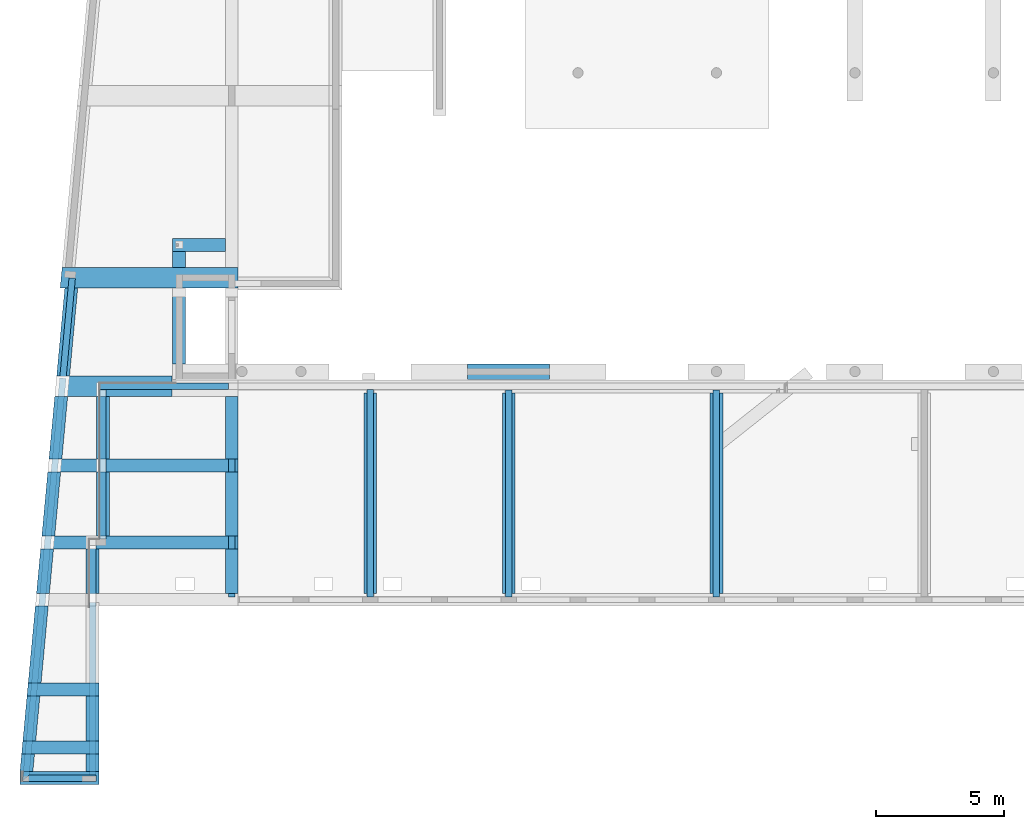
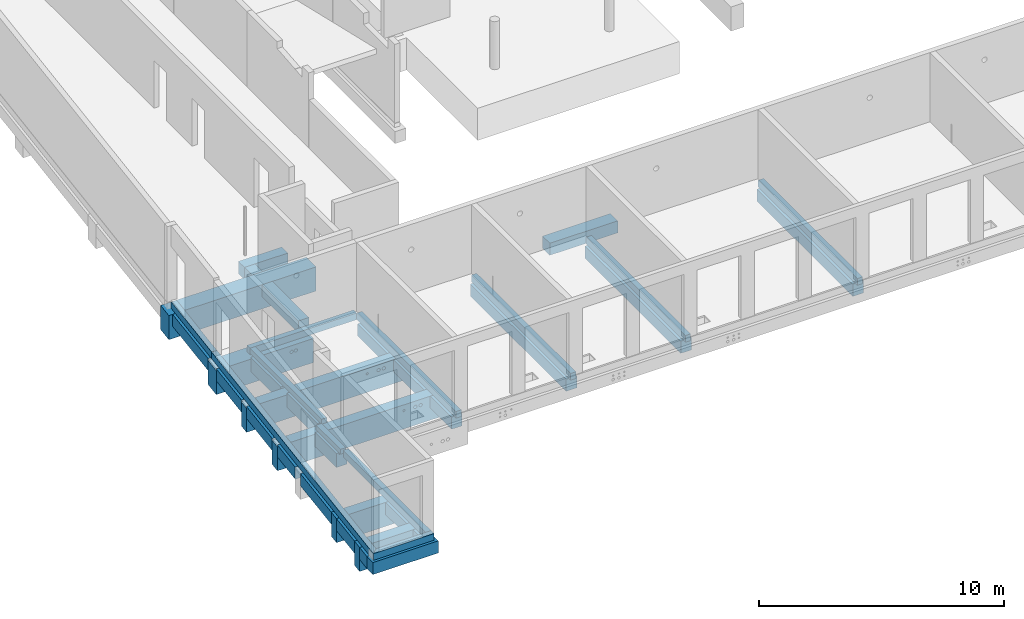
# One storey, part 1 of 60: 40 footings, 8 openings.
"""IFC2X3 building model written with IfcOpenShell, lengths in millimetres."""

from ifc_helpers import new_model, entity, si_unit, converted_unit, derived_unit, direction, frame, frame_2d, origin, origin_2d_with_axis, place, context, subcontext, project, spatial, polyline, rectangle, circle, outline, extrude, material, element, save


model = new_model("IFC2X3")

# Units and contexts
model_context = context("Model", 3, precision=0.01, world=origin(), true_north=direction((6.12303176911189e-17, 1.0)))
body_context = subcontext(model_context, "Body", "Model", "MODEL_VIEW")
ifc_project = project(units=[si_unit("LENGTHUNIT", "METRE", prefix="MILLI"), si_unit("AREAUNIT", "SQUARE_METRE"), si_unit("VOLUMEUNIT", "CUBIC_METRE"), converted_unit("PLANEANGLEUNIT", "DEGREE", entity("IfcRatioMeasure", 0.0174532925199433), si_unit("PLANEANGLEUNIT", "RADIAN"), dimensions=[0, 0, 0, 0, 0, 0, 0]), si_unit("MASSUNIT", "GRAM", prefix="KILO"), derived_unit("MASSDENSITYUNIT", [(si_unit("MASSUNIT", "GRAM", prefix="KILO"), 1), (si_unit("LENGTHUNIT", "METRE"), -3)]), si_unit("TIMEUNIT", "SECOND"), si_unit("FREQUENCYUNIT", "HERTZ"), si_unit("THERMODYNAMICTEMPERATUREUNIT", "DEGREE_CELSIUS"), derived_unit("THERMALTRANSMITTANCEUNIT", [(si_unit("MASSUNIT", "GRAM", prefix="KILO"), 1), (si_unit("THERMODYNAMICTEMPERATUREUNIT", "KELVIN"), -1), (si_unit("TIMEUNIT", "SECOND"), -3)]), derived_unit("VOLUMETRICFLOWRATEUNIT", [(si_unit("LENGTHUNIT", "METRE"), 3), (si_unit("TIMEUNIT", "SECOND"), -1)]), si_unit("ELECTRICCURRENTUNIT", "AMPERE"), si_unit("ELECTRICVOLTAGEUNIT", "VOLT"), si_unit("POWERUNIT", "WATT"), si_unit("FORCEUNIT", "NEWTON", prefix="KILO"), si_unit("ILLUMINANCEUNIT", "LUX"), si_unit("LUMINOUSFLUXUNIT", "LUMEN"), si_unit("LUMINOUSINTENSITYUNIT", "CANDELA"), derived_unit("USERDEFINED", [(si_unit("MASSUNIT", "GRAM", prefix="KILO"), -1), (si_unit("LENGTHUNIT", "METRE"), -2), (si_unit("TIMEUNIT", "SECOND"), 3), (si_unit("LUMINOUSFLUXUNIT", "LUMEN"), 1)]), derived_unit("LINEARVELOCITYUNIT", [(si_unit("LENGTHUNIT", "METRE"), 1), (si_unit("TIMEUNIT", "SECOND"), -1)]), si_unit("PRESSUREUNIT", "PASCAL"), derived_unit("USERDEFINED", [(si_unit("LENGTHUNIT", "METRE"), -2), (si_unit("MASSUNIT", "GRAM", prefix="KILO"), 1), (si_unit("TIMEUNIT", "SECOND"), -2)])], contexts=[model_context])

# Site, building, storey
site_placement = place(None, origin())
site = spatial("IfcSite", under=ifc_project, at=site_placement, Name="Default", CompositionType="ELEMENT")
building_placement = place(site_placement, origin())
building = spatial("IfcBuilding", under=site, at=building_placement, Name="niet gebruiken", CompositionType="ELEMENT")
storey_placement = place(building_placement, origin())
storey = spatial("IfcBuildingStorey", under=building, at=storey_placement, Name="00 begane grond", CompositionType="ELEMENT", Elevation=0.0)

# Footings
ifc_material = material(Name="NLRS_f2_beton ihwg")
footing_1_placement = place(storey_placement, origin())
element("IfcFooting", 1, at=footing_1_placement, inside=storey, material=ifc_material, Name="NLRS_16.12_SF_WPB_funderingsbalk ihwg recht_gen:500x600", ObjectType="NLRS_16.12_SF_WPB_funderingsbalk ihwg recht_gen:500x600", PredefinedType="FOOTING_BEAM", context=body_context, shape_type="SweptSolid", body=[
    extrude(rectangle(XDim=2436.0000000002, YDim=500.0, at=frame_2d((-4.54747350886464e-13, -5.40012479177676e-13), x_axis=(1.0, 0.0))), frame((8100.0, 7003.0, -1092.0), z_axis=(0.0, 0.0, 1.0), x_axis=(0.0, -1.0, 0.0)), (0.0, 0.0, 1.0), 599.999999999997),
])
footing_2_placement = place(storey_placement, origin())
element("IfcFooting", 2, at=footing_2_placement, inside=storey, material=ifc_material, Name="NLRS_16.12_SF_WPB_funderingsbalk ihwg recht_gen:500x600", ObjectType="NLRS_16.12_SF_WPB_funderingsbalk ihwg recht_gen:500x600", PredefinedType="FOOTING_BEAM", context=body_context, shape_type="SweptSolid", body=[
    extrude(rectangle(XDim=7821.00000000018, YDim=500.000000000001, at=frame_2d((4.54747350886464e-13, -1.08002495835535e-12), x_axis=(1.0, 0.0))), frame((13500.0, 4460.50000000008, -1092.0), z_axis=(0.0, 0.0, 1.0), x_axis=(0.0, 1.0, 0.0)), (0.0, 0.0, 1.0), 599.999999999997),
])
footing_3_placement = place(storey_placement, origin())
element("IfcFooting", 3, at=footing_3_placement, inside=storey, material=ifc_material, Name="NLRS_16.12_SF_WPB_funderingsbalk ihwg recht_gen:500x600", ObjectType="NLRS_16.12_SF_WPB_funderingsbalk ihwg recht_gen:500x600", PredefinedType="FOOTING_BEAM", context=body_context, shape_type="SweptSolid", body=[
    extrude(rectangle(XDim=7821.00000000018, YDim=500.000000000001, at=frame_2d((0.0, -1.08002495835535e-12), x_axis=(1.0, 0.0))), frame((18900.0, 4460.50000000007, -1092.0), z_axis=(0.0, 0.0, 1.0), x_axis=(0.0, 1.0, 0.0)), (0.0, 0.0, 1.0), 599.999999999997),
])
footing_4_placement = place(storey_placement, origin())
element("IfcFooting", 4, at=footing_4_placement, inside=storey, material=ifc_material, Name="NLRS_16.12_SF_WPB_funderingsbalk ihwg recht_gen:500x600", ObjectType="NLRS_16.12_SF_WPB_funderingsbalk ihwg recht_gen:500x600", PredefinedType="FOOTING_BEAM", context=body_context, shape_type="SweptSolid", body=[
    extrude(rectangle(XDim=7821.00000000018, YDim=499.999999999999, at=frame_2d((-679.290501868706, 83.3333333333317), x_axis=(1.0, 0.0))), frame((27083.333333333, 5139.79050186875, -1092.0), z_axis=(0.0, 0.0, 1.0), x_axis=(0.0, 1.0, 0.0)), (0.0, 0.0, 1.0), 599.999999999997),
])
footing_5_placement = place(storey_placement, origin())
element("IfcFooting", 5, at=footing_5_placement, inside=storey, material=ifc_material, Name="NLRS_16.12_SF_WPB_funderingsbalk ihwg recht_gen:500x600", ObjectType="NLRS_16.12_SF_WPB_funderingsbalk ihwg recht_gen:500x600", PredefinedType="FOOTING_BEAM", context=body_context, shape_type="SweptSolid", body=[
    extrude(rectangle(XDim=700.000000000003, YDim=500.0, at=origin_2d_with_axis()), frame((2675.0, -6055.0, -1002.0), z_axis=(0.0, 0.0, 1.0), x_axis=(0.0, -1.0, 0.0)), (0.0, 0.0, 1.0), 599.999999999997),
])
footing_6_placement = place(storey_placement, origin())
element("IfcFooting", 6, at=footing_6_placement, inside=storey, material=ifc_material, Name="NLRS_16.12_SF_WPB_funderingsbalk ihwg enkele sponning_gen:500x700/125x90", ObjectType="NLRS_16.12_SF_WPB_funderingsbalk ihwg enkele sponning_gen:500x700/125x90", PredefinedType="FOOTING_BEAM", context=body_context, shape_type="SweptSolid", body=[
    extrude(outline(polyline([(-238.571428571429, 68.5714285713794), (-238.571428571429, -306.42857142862), (461.42857142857, -306.42857142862), (461.42857142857, 193.57142857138), (-148.571428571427, 193.57142857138), (-148.571428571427, 88.5714285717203), (-148.571428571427, 68.5714285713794), (-238.571428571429, 68.5714285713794)])), frame((3131.42857142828, 5785.0, -640.571428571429), z_axis=(0.0, -1.0, 0.0), x_axis=(0.0, 0.0, -1.0)), (0.0, 0.0, -1.0), 2436.0000000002),
])
footing_7_placement = place(storey_placement, origin())
element("IfcFooting", 7, at=footing_7_placement, inside=storey, material=ifc_material, Name="NLRS_16.12_SF_WPB_opstort ihwg recht_gen:250x332", ObjectType="NLRS_16.12_SF_WPB_opstort ihwg recht_gen:250x332", PredefinedType="FOOTING_BEAM", context=body_context, shape_type="SweptSolid", body=[
    extrude(rectangle(XDim=5019.99999999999, YDim=250.000000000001, at=frame_2d((-93.0000000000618, -24.9999999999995), x_axis=(1.0, 0.0))), frame((5553.0, 8646.0, -492.0)), (0.0, 0.0, 1.0), 331.999999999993),
])
footing_8_placement = place(storey_placement, origin())
element("IfcFooting", 8, at=footing_8_placement, inside=storey, material=ifc_material, Name="NLRS_16.12_SF_WPB_opstort ihwg recht_gen:250x332", ObjectType="NLRS_16.12_SF_WPB_opstort ihwg recht_gen:250x332", PredefinedType="FOOTING_BEAM", context=body_context, shape_type="SweptSolid", body=[
    extrude(rectangle(XDim=8095.99999999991, YDim=250.000000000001, at=frame_2d((0.0, -1.08713038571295e-12), x_axis=(1.0, 0.0))), frame((8100.0, 4448.0, -492.0), z_axis=(0.0, 0.0, 1.0), x_axis=(0.0, -1.0, 0.0)), (0.0, 0.0, 1.0), 331.999999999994),
])
footing_9_placement = place(storey_placement, origin())
element("IfcFooting", 9, at=footing_9_placement, inside=storey, material=ifc_material, Name="NLRS_16.12_SF_WPB_opstort ihwg recht_gen:250x332", ObjectType="NLRS_16.12_SF_WPB_opstort ihwg recht_gen:250x332", PredefinedType="FOOTING_BEAM", context=body_context, shape_type="SweptSolid", body=[
    extrude(rectangle(XDim=8095.99999999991, YDim=249.999999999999, at=frame_2d((0.0, -2.16715534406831e-12), x_axis=(1.0, 0.0))), frame((13500.0, 4448.0, -492.0), z_axis=(0.0, 0.0, 1.0), x_axis=(0.0, -1.0, 0.0)), (0.0, 0.0, 1.0), 331.999999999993),
])
footing_10_placement = place(storey_placement, origin())
element("IfcFooting", 10, at=footing_10_placement, inside=storey, material=ifc_material, Name="NLRS_16.12_SF_WPB_opstort ihwg recht_gen:250x332", ObjectType="NLRS_16.12_SF_WPB_opstort ihwg recht_gen:250x332", PredefinedType="FOOTING_BEAM", context=body_context, shape_type="SweptSolid", body=[
    extrude(rectangle(XDim=8083.29999999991, YDim=249.999999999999, at=frame_2d((0.0, 1.08002495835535e-12), x_axis=(1.0, 0.0))), frame((18900.0, 4441.6500000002, -492.0), z_axis=(0.0, 0.0, 1.0), x_axis=(0.0, -1.0, 0.0)), (0.0, 0.0, 1.0), 331.999999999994),
])
footing_11_placement = place(storey_placement, origin())
element("IfcFooting", 11, at=footing_11_placement, inside=storey, material=ifc_material, Name="NLRS_16.12_SF_WPB_opstort ihwg recht_gen:250x332", ObjectType="NLRS_16.12_SF_WPB_opstort ihwg recht_gen:250x332", PredefinedType="FOOTING_BEAM", context=body_context, shape_type="SweptSolid", body=[
    extrude(rectangle(XDim=8083.29999999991, YDim=249.999999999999, at=frame_2d((4.54747350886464e-13, 2.16715534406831e-12), x_axis=(1.0, 0.0))), frame((27000.0, 4441.65000000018, -492.0), z_axis=(0.0, 0.0, 1.0), x_axis=(0.0, -1.0, 0.0)), (0.0, 0.0, 1.0), 331.999999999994),
])
footing_12_placement = place(storey_placement, origin())
element("IfcFooting", 12, at=footing_12_placement, inside=storey, material=ifc_material, Name="NLRS_16.12_SF_WPB_opstort ihwg recht_gen:250x332", ObjectType="NLRS_16.12_SF_WPB_opstort ihwg recht_gen:250x332", PredefinedType="FOOTING_BEAM", context=body_context, shape_type="SweptSolid", body=[
    extrude(rectangle(XDim=6730.00000000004, YDim=250.0, at=frame_2d((-1063.33333333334, -3.62376795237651e-13), x_axis=(1.0, 0.0))), frame((2675.0, -2101.66666666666, -402.0), z_axis=(0.0, 0.0, 1.0), x_axis=(0.0, 1.0, 0.0)), (0.0, 0.0, 1.0), 331.999999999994),
])
footing_13_placement = place(storey_placement, origin())
element("IfcFooting", 13, at=footing_13_placement, inside=storey, material=ifc_material, Name="NLRS_16.12_SF_WPB_opstort ihwg recht_gen:250x242", ObjectType="NLRS_16.12_SF_WPB_opstort ihwg recht_gen:250x242", PredefinedType="FOOTING_BEAM", context=body_context, shape_type="SweptSolid", body=[
    extrude(rectangle(XDim=5836.00000000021, YDim=250.0, at=frame_2d((-295.777777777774, 69.4444444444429), x_axis=(1.0, 0.0))), frame((3144.44444444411, 5873.77777777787, -402.0), z_axis=(0.0, 0.0, 1.0), x_axis=(0.0, 1.0, 0.0)), (0.0, 0.0, 1.0), 241.999999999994),
])
footing_14_placement = place(storey_placement, origin())
element("IfcFooting", 14, at=footing_14_placement, inside=storey, material=ifc_material, Name="NLRS_16.12_SF_WPB_funderingsbalk ihwg recht_gen:500x600", ObjectType="NLRS_16.12_SF_WPB_funderingsbalk ihwg recht_gen:500x600", PredefinedType="FOOTING_BEAM", context=body_context, shape_type="SweptSolid", body=[
    extrude(outline(polyline([(-1704.19993312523, -250.0), (1750.54712481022, -250.0), (1704.19993312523, 250.0), (-1750.54712481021, 250.0), (-1704.19993312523, -250.0)])), frame((1685.40580633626, 10741.0, -1002.0), z_axis=(0.0, 0.0, 1.0), x_axis=(0.092298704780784, 0.995731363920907, 0.0)), (0.0, 0.0, 1.0), 599.999999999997),
])
footing_15_placement = place(storey_placement, origin())
element("IfcFooting", 15, at=footing_15_placement, inside=storey, material=ifc_material, Name="NLRS_16.12_SF_WPB_funderingsbalk ihwg recht_gen:500x600", ObjectType="NLRS_16.12_SF_WPB_funderingsbalk ihwg recht_gen:500x600", PredefinedType="FOOTING_BEAM", context=body_context, shape_type="SweptSolid", body=[
    extrude(rectangle(XDim=3080.00382478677, YDim=500.0, at=frame_2d((-0.357244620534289, -83.3333333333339), x_axis=(1.0, 0.0))), frame((1385.35533222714, -6571.66666666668, -1002.0)), (0.0, 0.0, 1.0), 599.999999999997),
])
footing_16_placement = place(storey_placement, origin())
element("IfcFooting", 16, at=footing_16_placement, inside=storey, material=ifc_material, Name="NLRS_16.12_SF_WPB_funderingsbalk ihwg recht_gen:500x600", ObjectType="NLRS_16.12_SF_WPB_funderingsbalk ihwg recht_gen:500x600", PredefinedType="FOOTING_BEAM", context=body_context, shape_type="SweptSolid", body=[
    extrude(rectangle(XDim=2050.0, YDim=499.999999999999, at=frame_2d((104.999999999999, 50.0000000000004), x_axis=(1.0, 0.0))), frame((6720.0, 14088.0, -1002.0)), (0.0, 0.0, 1.0), 599.999999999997),
])
footing_17_placement = place(storey_placement, origin())
element("IfcFooting", 17, at=footing_17_placement, inside=storey, material=ifc_material, Name="NLRS_16.12_SF_WPB_funderingsbalk ihwg recht_gen:500x600", ObjectType="NLRS_16.12_SF_WPB_funderingsbalk ihwg recht_gen:500x600", PredefinedType="FOOTING_BEAM", context=body_context, shape_type="SweptSolid", body=[
    extrude(rectangle(XDim=627.0, YDim=500.0, at=frame_2d((1.08002495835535e-12, -5.40012479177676e-13), x_axis=(1.0, 0.0))), frame((6050.0, 13574.5, -1002.0), z_axis=(0.0, 0.0, 1.0), x_axis=(0.0, -1.0, 0.0)), (0.0, 0.0, 1.0), 599.999999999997),
])
footing_18_placement = place(storey_placement, origin())
element("IfcFooting", 18, at=footing_18_placement, inside=storey, material=ifc_material, Name="NLRS_16.12_SF_WPB_funderingsbalk ihwg recht_gen:500x600", ObjectType="NLRS_16.12_SF_WPB_funderingsbalk ihwg recht_gen:500x600", PredefinedType="FOOTING_BEAM", context=body_context, shape_type="SweptSolid", body=[
    extrude(rectangle(XDim=2965.0, YDim=500.0, at=frame_2d((377.499999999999, 0.0), x_axis=(1.0, 0.0))), frame((6050.0, 11356.0, -1002.0), z_axis=(0.0, 0.0, 1.0), x_axis=(0.0, -1.0, 0.0)), (0.0, 0.0, 1.0), 599.999999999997),
])
footing_19_placement = place(storey_placement, origin())
element("IfcFooting", 19, at=footing_19_placement, inside=storey, material=ifc_material, Name="NLRS_16.12_SF_WPB_opstort ihwg recht_gen:250x332", ObjectType="NLRS_16.12_SF_WPB_opstort ihwg recht_gen:250x332", PredefinedType="FOOTING_BEAM", context=body_context, shape_type="SweptSolid", body=[
    extrude(outline(polyline([(-9346.57538000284, -100.329078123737), (6071.99528363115, -100.329078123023), (6446.79792165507, -98.6836875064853), (6174.35755471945, 149.670921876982), (-9346.57538000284, 149.670921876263), (-9346.57538000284, -100.329078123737)])), frame((630.870152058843, -368.184098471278, -402.0), z_axis=(0.0, 0.0, 1.0), x_axis=(-0.0922987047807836, -0.995731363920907, 0.0)), (0.0, 0.0, 1.0), 331.999999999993),
])
footing_20_placement = place(storey_placement, origin())
element("IfcFooting", 20, at=footing_20_placement, inside=storey, material=ifc_material, Name="NLRS_16.12_SF_WPB_opstort ihwg recht_gen:250x332", ObjectType="NLRS_16.12_SF_WPB_opstort ihwg recht_gen:250x332", PredefinedType="FOOTING_BEAM", context=body_context, shape_type="SweptSolid", body=[
    extrude(outline(polyline([(-1427.49583928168, -124.725768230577), (-1177.49583928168, -124.725768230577), (1162.48718263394, -124.725768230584), (1434.92754956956, 123.628841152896), (1435.07278564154, 125.274231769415), (-1427.49583928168, 125.274231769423), (-1427.49583928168, -124.725768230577)])), frame((1372.50416071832, -6654.72576823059, -402.0), z_axis=(0.0, 0.0, 1.0), x_axis=(-1.0, 0.0, 0.0)), (0.0, 0.0, 1.0), 331.999999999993),
])

# Footing, openings
footing_21_placement = place(storey_placement, origin())
footing_21 = element("IfcFooting", 21, at=footing_21_placement, inside=storey, material=ifc_material, Name="NLRS_16.12_SF_WPB_funderingsbalk ihwg recht_gen:800x1200", ObjectType="NLRS_16.12_SF_WPB_funderingsbalk ihwg recht_gen:800x1200", PredefinedType="FOOTING_BEAM", context=body_context, shape_type="SweptSolid", body=[
    extrude(outline(polyline([(-2271.08901013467, -400.0), (2234.01125678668, -400.0), (2308.16676348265, 400.0), (-2271.08901013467, 400.0), (-2271.08901013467, -400.0)])), frame((3508.910989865, 8621.0, -1692.0), z_axis=(0.0, 0.0, 1.0), x_axis=(-1.0, 0.0, 0.0)), (0.0, 0.0, 1.0), 1200.0),
])
opening_1_placement = place(storey_placement, origin())
element("IfcOpeningElement", 22, at=opening_1_placement, cuts=footing_21, Name="NLRS_16.12_SF_WPB_funderingsbalk ihwg recht_gen:800x1200:1", ObjectType="Opening", context=body_context, shape_type="SweptSolid", body=[
    extrude(circle(Radius=80.0, at=frame_2d((0.0, -2.70716782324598e-13), x_axis=(1.0, 0.0))), frame((4749.62618605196, 9021.0, -800.0), z_axis=(0.0, -1.0, 0.0), x_axis=(-1.0, 0.0, 0.0)), (0.0, 0.0, 1.0), 800.0),
])
opening_2_placement = place(storey_placement, origin())
element("IfcOpeningElement", 23, at=opening_2_placement, cuts=footing_21, Name="NLRS_16.12_SF_WPB_funderingsbalk ihwg recht_gen:800x1200:2", ObjectType="Opening", context=body_context, shape_type="SweptSolid", body=[
    extrude(circle(Radius=80.0, at=frame_2d((0.0, -2.70716782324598e-13), x_axis=(1.0, 0.0))), frame((4949.62618605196, 9021.0, -800.0), z_axis=(0.0, -1.0, 0.0), x_axis=(-1.0, 0.0, 0.0)), (0.0, 0.0, 1.0), 800.0),
])

# Footing
footing_22_placement = place(storey_placement, origin())
element("IfcFooting", 24, at=footing_22_placement, inside=storey, material=ifc_material, Name="NLRS_16.12_SF_WPB_funderingsbalk ihwg recht_gen:500x1200", ObjectType="NLRS_16.12_SF_WPB_funderingsbalk ihwg recht_gen:500x1200", PredefinedType="FOOTING_BEAM", context=body_context, shape_type="SweptSolid", body=[
    extrude(outline(polyline([(-1391.69089900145, -250.0), (1368.51730315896, -250.0), (1414.86449484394, 250.0), (-1391.69089900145, 250.0), (-1391.69089900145, -250.0)])), frame((1533.30910099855, -3205.0, -1602.0), z_axis=(0.0, 0.0, 1.0), x_axis=(-1.0, 0.0, 0.0)), (0.0, 0.0, 1.0), 1200.0),
])

# Footing, openings
footing_23_placement = place(storey_placement, origin())
footing_23 = element("IfcFooting", 25, at=footing_23_placement, inside=storey, material=ifc_material, Name="NLRS_16.12_SF_WPB_funderingsbalk ihwg recht_gen:500x1200", ObjectType="NLRS_16.12_SF_WPB_funderingsbalk ihwg recht_gen:500x1200", PredefinedType="FOOTING_BEAM", context=body_context, shape_type="SweptSolid", body=[
    extrude(outline(polyline([(-3838.15801872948, -250.0), (3814.98442288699, -250.0), (3861.33161457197, 250.0), (-3838.15801872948, 250.0), (-3838.15801872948, -250.0)])), frame((4511.84198127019, 2535.0, -1692.0), z_axis=(0.0, 0.0, 1.0), x_axis=(-1.0, 0.0, 0.0)), (0.0, 0.0, 1.0), 1200.0),
])
opening_3_placement = place(storey_placement, origin())
element("IfcOpeningElement", 26, at=opening_3_placement, cuts=footing_23, Name="NLRS_16.12_SF_WPB_funderingsbalk ihwg recht_gen:500x1200:1", ObjectType="Opening", context=body_context, shape_type="SweptSolid", body=[
    extrude(circle(Radius=80.0000000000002, at=frame_2d((-2.29023675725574e-28, 1.35358391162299e-13), x_axis=(1.0, 0.0))), frame((7400.25153996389, 2285.0, -780.0), z_axis=(0.0, 1.0, 0.0), x_axis=(1.0, 0.0, 0.0)), (0.0, 0.0, 1.0), 500.0),
])
opening_4_placement = place(storey_placement, origin())
element("IfcOpeningElement", 27, at=opening_4_placement, cuts=footing_23, Name="NLRS_16.12_SF_WPB_funderingsbalk ihwg recht_gen:500x1200:2", ObjectType="Opening", context=body_context, shape_type="SweptSolid", body=[
    extrude(circle(Radius=55.0000000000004, at=frame_2d((-1.33250138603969e-27, -2.70716782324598e-13), x_axis=(1.0, 0.0))), frame((6613.70500691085, 2285.0, -780.0), z_axis=(0.0, 1.0, 0.0), x_axis=(1.0, 0.0, 0.0)), (0.0, 0.0, 1.0), 500.0),
])
opening_5_placement = place(storey_placement, origin())
element("IfcOpeningElement", 28, at=opening_5_placement, cuts=footing_23, Name="NLRS_16.12_SF_WPB_funderingsbalk ihwg recht_gen:500x1200:3", ObjectType="Opening", context=body_context, shape_type="SweptSolid", body=[
    extrude(circle(Radius=80.0000000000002, at=frame_2d((-2.29023675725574e-28, 1.35358391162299e-13), x_axis=(1.0, 0.0))), frame((7150.25153996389, 2285.0, -780.0), z_axis=(0.0, 1.0, 0.0), x_axis=(1.0, 0.0, 0.0)), (0.0, 0.0, 1.0), 500.0),
])

footing_24_placement = place(storey_placement, origin())
footing_24 = element("IfcFooting", 29, at=footing_24_placement, inside=storey, material=ifc_material, Name="NLRS_16.12_SF_WPB_funderingsbalk ihwg recht_gen:500x1200", ObjectType="NLRS_16.12_SF_WPB_funderingsbalk ihwg recht_gen:500x1200", PredefinedType="FOOTING_BEAM", context=body_context, shape_type="SweptSolid", body=[
    extrude(outline(polyline([(-3699.11644367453, -250.0), (3675.94284783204, -250.0), (3722.29003951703, 250.0), (-3699.11644367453, 250.0), (-3699.11644367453, -250.0)])), frame((4650.88355632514, 5535.0, -1692.0), z_axis=(0.0, 0.0, 1.0), x_axis=(-1.0, 0.0, 0.0)), (0.0, 0.0, 1.0), 1200.0),
])
opening_6_placement = place(storey_placement, origin())
element("IfcOpeningElement", 30, at=opening_6_placement, cuts=footing_24, Name="NLRS_16.12_SF_WPB_funderingsbalk ihwg recht_gen:500x1200:1", ObjectType="Opening", context=body_context, shape_type="SweptSolid", body=[
    extrude(circle(Radius=80.0000000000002, at=frame_2d((-1.60316573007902e-26, -9.47508738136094e-13), x_axis=(1.0, 0.0))), frame((7400.2515399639, 5785.0, -765.0), z_axis=(0.0, -1.0, 0.0), x_axis=(-1.0, 0.0, 0.0)), (0.0, 0.0, 1.0), 500.0),
])
opening_7_placement = place(storey_placement, origin())
element("IfcOpeningElement", 31, at=opening_7_placement, cuts=footing_24, Name="NLRS_16.12_SF_WPB_funderingsbalk ihwg recht_gen:500x1200:2", ObjectType="Opening", context=body_context, shape_type="SweptSolid", body=[
    extrude(circle(Radius=80.0000000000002, at=frame_2d((-1.60316573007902e-26, -9.47508738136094e-13), x_axis=(1.0, 0.0))), frame((7150.2515399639, 5785.0, -765.0), z_axis=(0.0, -1.0, 0.0), x_axis=(-1.0, 0.0, 0.0)), (0.0, 0.0, 1.0), 500.0),
])
opening_8_placement = place(storey_placement, origin())
element("IfcOpeningElement", 32, at=opening_8_placement, cuts=footing_24, Name="NLRS_16.12_SF_WPB_funderingsbalk ihwg recht_gen:500x1200:3", ObjectType="Opening", context=body_context, shape_type="SweptSolid", body=[
    extrude(circle(Radius=55.0000000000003, at=frame_2d((-1.86550194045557e-26, -9.47508738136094e-13), x_axis=(1.0, 0.0))), frame((6613.70500691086, 5785.0, -765.0), z_axis=(0.0, -1.0, 0.0), x_axis=(-1.0, 0.0, 0.0)), (0.0, 0.0, 1.0), 500.0),
])

# Footings
footing_25_placement = place(storey_placement, origin())
element("IfcFooting", 33, at=footing_25_placement, inside=storey, material=ifc_material, Name="NLRS_16.12_SF_WPB_funderingsbalk ihwg recht_gen:800x1200", ObjectType="NLRS_16.12_SF_WPB_funderingsbalk ihwg recht_gen:800x1200", PredefinedType="FOOTING_BEAM", context=body_context, shape_type="SweptSolid", body=[
    extrude(outline(polyline([(-2699.99309697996, -571.428571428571), (4162.76857734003, -571.428571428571), (4237.19690755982, 228.571428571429), (-149.99309697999, 228.571428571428), (-649.993096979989, 228.571428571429), (-2199.99309697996, 228.571428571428), (-2699.99309697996, 228.571428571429), (-2699.99309697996, -571.428571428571)])), frame((5650.00690302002, 12689.5714285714, -1602.0), z_axis=(0.0, 0.0, 1.0), x_axis=(-1.0, 0.0, 0.0)), (0.0, 0.0, 1.0), 1200.0),
])
footing_26_placement = place(storey_placement, origin())
element("IfcFooting", 34, at=footing_26_placement, inside=storey, material=ifc_material, Name="NLRS_16.12_SF_WPB_funderingsbalk ihwg recht_gen:500x1200", ObjectType="NLRS_16.12_SF_WPB_funderingsbalk ihwg recht_gen:500x1200", PredefinedType="FOOTING_BEAM", context=body_context, shape_type="SweptSolid", body=[
    extrude(outline(polyline([(-1495.97208029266, -250.0), (1472.79848445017, -250.0), (1519.14567613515, 250.0), (-1495.97208029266, 250.0), (-1495.97208029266, -250.0)])), frame((1429.02791970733, -5455.0, -1602.0), z_axis=(0.0, 0.0, 1.0), x_axis=(-1.0, 0.0, 0.0)), (0.0, 0.0, 1.0), 1200.0),
])
footing_27_placement = place(storey_placement, origin())
element("IfcFooting", 35, at=footing_27_placement, inside=storey, material=ifc_material, Name="NLRS_16.12_SF_WPB_opstort ihwg recht_gen:250x332", ObjectType="NLRS_16.12_SF_WPB_opstort ihwg recht_gen:250x332", PredefinedType="FOOTING_BEAM", context=body_context, shape_type="SweptSolid", body=[
    extrude(outline(polyline([(-204.0, -992.499999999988), (38.0, -992.499999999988), (38.0, -867.499999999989), (128.0, -867.49999999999), (128.0, 867.49999999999), (38.0, 867.49999999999), (38.0, 992.499999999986), (-204.0, 992.499999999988), (-204.0, -992.499999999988)])), frame((2550.0, 1417.50000000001, -364.0), z_axis=(1.0, 0.0, 0.0), x_axis=(0.0, 0.0, -1.0)), (0.0, 0.0, 1.0), 250.0),
])
footing_28_placement = place(storey_placement, origin())
element("IfcFooting", 36, at=footing_28_placement, inside=storey, material=ifc_material, Name="NLRS_16.12_SF_WPB_funderingsbalk ihwg enkele sponning_gen:500x700/125x90", ObjectType="NLRS_16.12_SF_WPB_funderingsbalk ihwg enkele sponning_gen:500x700/125x90", PredefinedType="FOOTING_BEAM", context=body_context, shape_type="SweptSolid", body=[
    extrude(outline(polyline([(-238.571428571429, 125.0), (-238.571428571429, -250.0), (-148.571428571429, -250.0), (461.428571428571, -250.0), (461.428571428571, 250.0), (-148.571428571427, 250.0), (-148.571428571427, 125.0), (-238.571428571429, 125.0)])), frame((3075.0, 2785.0, -640.571428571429), z_axis=(0.0, -1.0, 0.0), x_axis=(0.0, 0.0, -1.0)), (0.0, 0.0, -1.0), 2500.0),
])
footing_29_placement = place(storey_placement, origin())
element("IfcFooting", 37, at=footing_29_placement, inside=storey, material=ifc_material, Name="NLRS_16.12_SF_WPB_funderingsbalk ihwg enkele sponning_gen:500x700/125x90", ObjectType="NLRS_16.12_SF_WPB_funderingsbalk ihwg enkele sponning_gen:500x700/125x90", PredefinedType="FOOTING_BEAM", context=body_context, shape_type="SweptSolid", body=[
    extrude(outline(polyline([(-494.444444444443, -224.444444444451), (115.555555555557, -224.444444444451), (205.555555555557, -224.444444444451), (205.555555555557, -99.444444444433), (115.555555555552, -99.444444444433), (115.555555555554, 150.555555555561), (115.555555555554, 170.555555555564), (115.555555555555, 275.555555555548), (-494.444444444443, 275.555555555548), (-494.444444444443, -224.444444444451)])), frame((2649.44444444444, 550.0, -607.555555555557), z_axis=(0.0, 1.0, 0.0), x_axis=(0.0, 0.0, 1.0)), (0.0, 0.0, 1.0), 1734.99999999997),
])
footing_30_placement = place(storey_placement, origin())
element("IfcFooting", 38, at=footing_30_placement, inside=storey, material=ifc_material, Name="NLRS_16.12_SF_WPB_funderingsbalk ihwg recht_gen:500x600", ObjectType="NLRS_16.12_SF_WPB_funderingsbalk ihwg recht_gen:500x600", PredefinedType="FOOTING_BEAM", context=body_context, shape_type="SweptSolid", body=[
    extrude(rectangle(XDim=1734.99999999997, YDim=500.0, at=frame_2d((2.8421709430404e-13, -5.40012479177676e-13), x_axis=(1.0, 0.0))), frame((8100.0, 1417.5, -1092.0), z_axis=(0.0, 0.0, 1.0), x_axis=(0.0, 1.0, 0.0)), (0.0, 0.0, 1.0), 599.999999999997),
])
footing_31_placement = place(storey_placement, origin())
element("IfcFooting", 39, at=footing_31_placement, inside=storey, material=ifc_material, Name="NLRS_16.12_SF_WPB_funderingsbalk ihwg recht_gen:500x600", ObjectType="NLRS_16.12_SF_WPB_funderingsbalk ihwg recht_gen:500x600", PredefinedType="FOOTING_BEAM", context=body_context, shape_type="SweptSolid", body=[
    extrude(rectangle(XDim=2500.0, YDim=500.0, at=frame_2d((2.27373675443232e-13, -5.40012479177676e-13), x_axis=(1.0, 0.0))), frame((8100.0, 4035.0, -1092.0), z_axis=(0.0, 0.0, 1.0), x_axis=(0.0, -1.0, 0.0)), (0.0, 0.0, 1.0), 599.999999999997),
])
footing_32_placement = place(storey_placement, origin())
element("IfcFooting", 40, at=footing_32_placement, inside=storey, material=ifc_material, Name="NLRS_16.12_SF_WPB_funderingsbalk ihwg recht_gen:500x600", ObjectType="NLRS_16.12_SF_WPB_funderingsbalk ihwg recht_gen:500x600", PredefinedType="FOOTING_BEAM", context=body_context, shape_type="SweptSolid", body=[
    extrude(outline(polyline([(-1200.04789153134, -250.0), (1246.39508321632, -250.0), (1200.04789153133, 250.0), (-1246.39508321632, 250.0), (-1200.04789153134, -250.0)])), frame((1338.91420129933, 7003.0, -1002.0), z_axis=(0.0, 0.0, 1.0), x_axis=(-0.0922987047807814, -0.995731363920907, 0.0)), (0.0, 0.0, 1.0), 599.999999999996),
])
footing_33_placement = place(storey_placement, origin())
element("IfcFooting", 41, at=footing_33_placement, inside=storey, material=ifc_material, Name="NLRS_16.12_SF_WPB_opstort ihwg recht_gen:250x332", ObjectType="NLRS_16.12_SF_WPB_opstort ihwg recht_gen:250x332", PredefinedType="FOOTING_BEAM", context=body_context, shape_type="SweptSolid", body=[
    extrude(rectangle(XDim=3925.0, YDim=250.0, at=frame_2d((0.0, -1.35003119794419e-13), x_axis=(1.0, 0.0))), frame((1699.24877259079, 10890.3398602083, -402.0), z_axis=(0.0, 0.0, 1.0), x_axis=(-0.0922987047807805, -0.995731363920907, 0.0)), (0.0, 0.0, 1.0), 331.999999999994),
])
footing_34_placement = place(storey_placement, origin())
element("IfcFooting", 42, at=footing_34_placement, inside=storey, material=ifc_material, Name="NLRS_16.12_SF_WPB_funderingsbalk ihwg recht_gen:500x600", ObjectType="NLRS_16.12_SF_WPB_funderingsbalk ihwg recht_gen:500x600", PredefinedType="FOOTING_BEAM", context=body_context, shape_type="SweptSolid", body=[
    extrude(rectangle(XDim=1750.0, YDim=500.0, at=frame_2d((-2.8421709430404e-13, 3.97903932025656e-13), x_axis=(1.0, 0.0))), frame((2675.0, -4330.0, -1002.0), z_axis=(0.0, 0.0, 1.0), x_axis=(0.0, 1.0, 0.0)), (0.0, 0.0, 1.0), 599.999999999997),
])
footing_35_placement = place(storey_placement, origin())
element("IfcFooting", 43, at=footing_35_placement, inside=storey, material=ifc_material, Name="NLRS_16.12_SF_WPB_funderingsbalk ihwg recht_gen:500x600", ObjectType="NLRS_16.12_SF_WPB_funderingsbalk ihwg recht_gen:500x600", PredefinedType="FOOTING_BEAM", context=body_context, shape_type="SweptSolid", body=[
    extrude(outline(polyline([(-1232.18507346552, -250.0), (1278.5322651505, -250.0), (1232.18507346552, 250.0), (-1278.5322651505, 250.0), (-1232.18507346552, -250.0)])), frame((1063.79727145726, 4035.0, -1002.0), z_axis=(0.0, 0.0, 1.0), x_axis=(-0.0922987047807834, -0.995731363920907, 0.0)), (0.0, 0.0, 1.0), 599.999999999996),
])
footing_36_placement = place(storey_placement, origin())
element("IfcFooting", 44, at=footing_36_placement, inside=storey, material=ifc_material, Name="NLRS_16.12_SF_WPB_funderingsbalk ihwg recht_gen:500x600", ObjectType="NLRS_16.12_SF_WPB_funderingsbalk ihwg recht_gen:500x600", PredefinedType="FOOTING_BEAM", context=body_context, shape_type="SweptSolid", body=[
    extrude(outline(polyline([(-848.045320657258, -250.0), (894.392512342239, -250.0), (848.045320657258, 250.0), (-894.392512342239, 250.0), (-848.045320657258, -250.0)])), frame((821.169722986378, 1417.50000000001, -1002.0), z_axis=(0.0, 0.0, 1.0), x_axis=(-0.0922987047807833, -0.995731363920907, 0.0)), (0.0, 0.0, 1.0), 599.999999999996),
])
footing_37_placement = place(storey_placement, origin())
element("IfcFooting", 45, at=footing_37_placement, inside=storey, material=ifc_material, Name="NLRS_16.12_SF_WPB_funderingsbalk ihwg recht_gen:500x600", ObjectType="NLRS_16.12_SF_WPB_funderingsbalk ihwg recht_gen:500x600", PredefinedType="FOOTING_BEAM", context=body_context, shape_type="SweptSolid", body=[
    extrude(outline(polyline([(-1485.76752466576, -250.0), (1532.11471635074, -250.0), (1485.76752466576, 250.0), (-1532.11471635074, 250.0), (-1485.76752466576, -250.0)])), frame((555.136842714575, -1452.49999999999, -1002.0), z_axis=(0.0, 0.0, 1.0), x_axis=(-0.0922987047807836, -0.995731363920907, 0.0)), (0.0, 0.0, 1.0), 599.999999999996),
])
footing_38_placement = place(storey_placement, origin())
element("IfcFooting", 46, at=footing_38_placement, inside=storey, material=ifc_material, Name="NLRS_16.12_SF_WPB_funderingsbalk ihwg recht_gen:500x600", ObjectType="NLRS_16.12_SF_WPB_funderingsbalk ihwg recht_gen:500x600", PredefinedType="FOOTING_BEAM", context=body_context, shape_type="SweptSolid", body=[
    extrude(outline(polyline([(-855.577472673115, -250.0), (901.924664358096, -250.0), (855.577472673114, 250.0), (-901.924664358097, 250.0), (-855.577472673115, -250.0)])), frame((288.408754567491, -4330.0, -1002.0), z_axis=(0.0, 0.0, 1.0), x_axis=(0.0922987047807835, 0.995731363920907, 0.0)), (0.0, 0.0, 1.0), 599.999999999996),
])
footing_39_placement = place(storey_placement, origin())
element("IfcFooting", 47, at=footing_39_placement, inside=storey, material=ifc_material, Name="NLRS_16.12_SF_WPB_funderingsbalk ihwg recht_gen:500x600", ObjectType="NLRS_16.12_SF_WPB_funderingsbalk ihwg recht_gen:500x600", PredefinedType="FOOTING_BEAM", context=body_context, shape_type="SweptSolid", body=[
    extrude(outline(polyline([(-328.326831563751, -250.0), (374.674023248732, -250.0), (328.32683156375, 250.0), (-374.674023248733, 250.0), (-328.326831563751, -250.0)])), frame((128.510943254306, -6055.0, -1002.0), z_axis=(0.0, 0.0, 1.0), x_axis=(0.0922987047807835, 0.995731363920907, 0.0)), (0.0, 0.0, 1.0), 599.999999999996),
])
footing_40_placement = place(storey_placement, origin())
element("IfcFooting", 48, at=footing_40_placement, inside=storey, material=ifc_material, Name="NLRS_16.12_SF_WPB_funderingsbalk ihwg recht_gen:600x600", ObjectType="NLRS_16.12_SF_WPB_funderingsbalk ihwg recht_gen:600x600", PredefinedType="FOOTING_BEAM", context=body_context, shape_type="SweptSolid", body=[
    extrude(rectangle(XDim=3200.00000000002, YDim=600.0, at=frame_2d((1.13686837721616e-12, -5.40012479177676e-13), x_axis=(1.0, 0.0))), frame((18900.0, 9196.0, -800.0)), (0.0, 0.0, 1.0), 599.999999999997),
])

save(model, "model.ifc")
